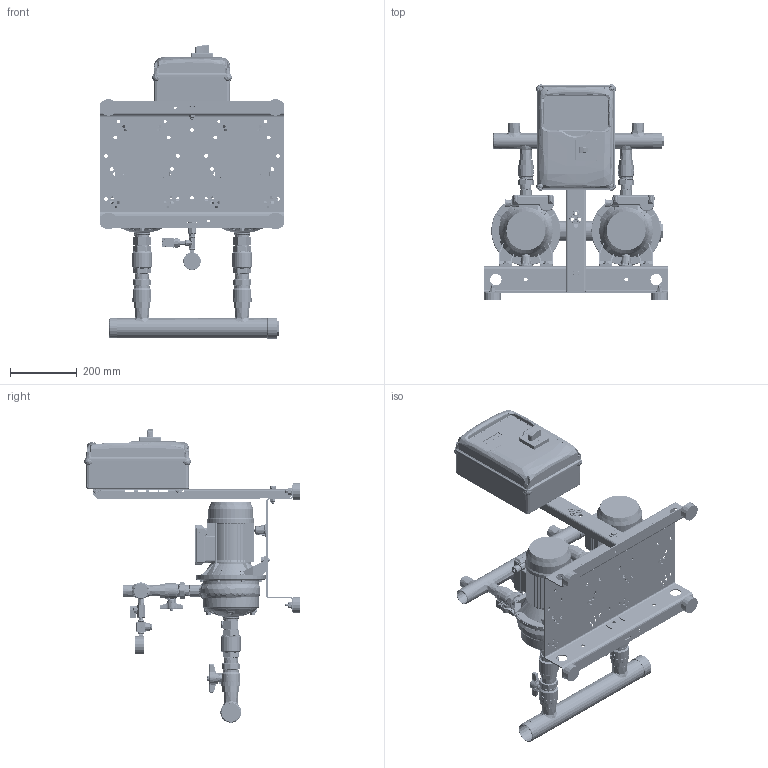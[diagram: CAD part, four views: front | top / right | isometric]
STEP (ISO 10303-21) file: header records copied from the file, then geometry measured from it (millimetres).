
FILE_DESCRIPTION((''),'2;1');
FILE_NAME('2GP_2CDX_70-12M_REV5_ASM','2025-02-04T14:54:24',('Utente'),('"Ebara Pumps Europe S.p.A"'),'CREO PARAMETRIC BY PTC INC, 2022124','CREO PARAMETRIC BY PTC INC, 2022124','');
FILE_SCHEMA(('AUTOMOTIVE_DESIGN { 1 0 10303 214 1 1 1 1 }'));
Products named in the file (45): 62508_275562936; CALOTTA_F_A304_DN50_369800820; VAL_INT_MF-B_OTN_CIM346_DN32; VAL_INT_M-F-3_OTN_CIM346_DN32_ASM; VAL-NR-FF-OTN-CIM30-DN32; VAL_NR_F-F_OTN_CIM30_DN32_ASM; NIPPLO-ALIM_OT_DN32_361910051; TAPPO_M_OT_1-2_380000878; 80545_10; 251420688_138; MEC_71_PACCO_90_MONOFASE_10; COPRIMORS_MEC63-71_MONOFASE_M4_; 72012_4; 2CDXM_70_12_ASM; EP_2CDXM_70-12_ASM; VAL_INT_MF-B_OTN_CIM346_DN25; VAL_INT_M-F-3_OTN_CIM346_DN25_ASM; RONDEL-P_FE_ZN_UNI6592_M8; DADO_AUTOAGG_M8_ESAG; VITI_TE_ISO4017_M8_L20; 62510_275562939; CALOTTA_F_A304_DN40_369800819; TAPPO-SALVAFIL_D31; VAL_INT_MF_OTN_CIM012_DN8; NIPPLO_OTG_8_380000861; RACC-T_OTG_DN8_380000880; MAN_RAD_D50_10BAR_361600160; BASE_2GP_I300-B300_DNRV; MONTANTE_H600_271472877; PIEDINO_CIL_369650010; RONDEL-P_FE_ZN_UNI6592_M10; DADI_NORM_ISO4032_FE_ZN_M10; RONDEL-P_ZN_UNI6593_M10X30X2-5; VITI_TE_ISO4017_M10_L45; TRAVERSO_MONT_L200_271472882; RONDEL-P_FE_ZN_UNI6593_M6X18X2; RONDEL-P_FE_ZN_UNI6592_M6; VITI_TE_ISO4017_M6_L20; DADI_NORM_ISO4032_FE_ZN_M6; DADO_AUTOAGG_M10_ESAG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
Assembly tree (88 placements, depth 4):
  2GP_2CDX_70-12M_REV5_ASM
    62508_275562936
    CALOTTA_F_A304_DN50_369800820
    VAL_INT_M-F-3_OTN_CIM346_DN32_ASM  x2
      VAL_INT_MF-B_OTN_CIM346_DN32
    VAL_NR_F-F_OTN_CIM30_DN32_ASM  x2
      VAL-NR-FF-OTN-CIM30-DN32
    NIPPLO-ALIM_OT_DN32_361910051  x2
    TAPPO_M_OT_1-2_380000878  x2
    EP_2CDXM_70-12_ASM  x2
      2CDXM_70_12_ASM
        80545_10
        251420688_138
        MEC_71_PACCO_90_MONOFASE_10
        COPRIMORS_MEC63-71_MONOFASE_M4_
        72012_4
    VAL_INT_M-F-3_OTN_CIM346_DN25_ASM  x2
      VAL_INT_MF-B_OTN_CIM346_DN25
    RONDEL-P_FE_ZN_UNI6592_M8  x4
    DADO_AUTOAGG_M8_ESAG  x4
    VITI_TE_ISO4017_M8_L20  x4
    62510_275562939
    CALOTTA_F_A304_DN40_369800819
    TAPPO-SALVAFIL_D31  x2
    VAL_INT_MF_OTN_CIM012_DN8
    NIPPLO_OTG_8_380000861
    RACC-T_OTG_DN8_380000880
    MAN_RAD_D50_10BAR_361600160
    DNRV_2P_I300-B300_H600-Q220X300_ASM
      BASE_2GP_I300-B300_DNRV
      MONTANTE_H600_271472877
      PIEDINO_CIL_369650010  x4
      RONDEL-P_FE_ZN_UNI6592_M10  x4
      DADI_NORM_ISO4032_FE_ZN_M10  x4
      RONDEL-P_ZN_UNI6593_M10X30X2-5
      VITI_TE_ISO4017_M10_L45
      TRAVERSO_MONT_L200_271472882  x2
      RONDEL-P_FE_ZN_UNI6593_M6X18X2  x8
      RONDEL-P_FE_ZN_UNI6592_M6  x4
      VITI_TE_ISO4017_M6_L20  x4
      DADI_NORM_ISO4032_FE_ZN_M6  x4
      DADO_AUTOAGG_M10_ESAG
    COM_EP-PRO_2M_362334214
    PG_PVC_D10-5_380000891  x3
    TRASD_16BAR_460500024
Bounding box: 550 x 644.45 x 878.95 mm (x, y, z)
Volume: 11032085.8 mm3; surface area: 3429667.7 mm2
Topology: 1359 solids, 1494 shells, 21568 faces, 54859 edges, 36516 vertices
Faces by surface type: plane 14208, cylinder 3429, cone 1356, extrusion 943, bspline 895, torus 632, sphere 103, revolution 2
Entity records: 967346 total; most frequent: CARTESIAN_POINT 299113, ORIENTED_EDGE 81079, DIRECTION 76189, PRESENTATION_STYLE_ASSIGNMENT 54436, STYLED_ITEM 44967, EDGE_CURVE 41491, CURVE_STYLE 40731, VECTOR 30415
